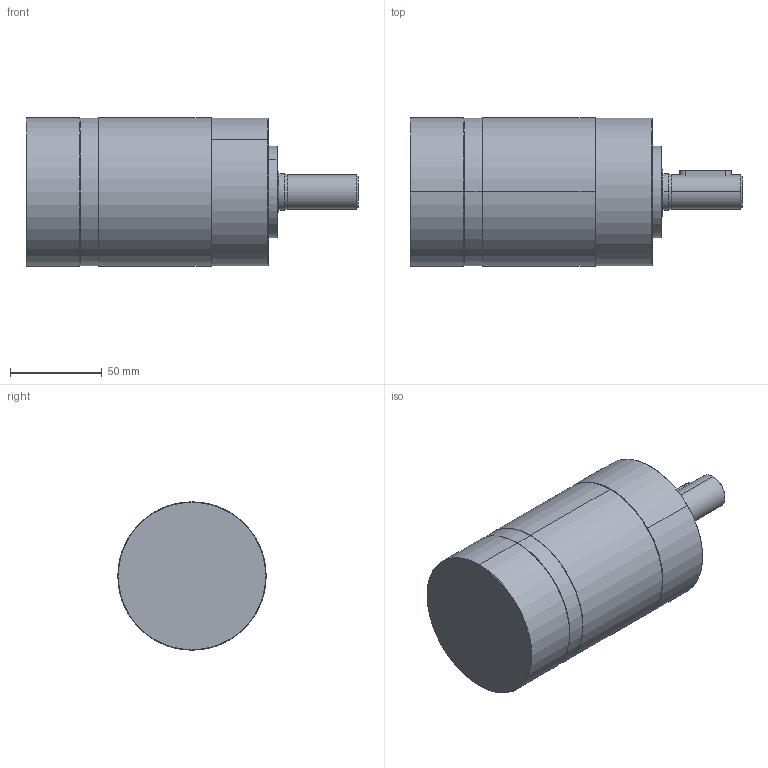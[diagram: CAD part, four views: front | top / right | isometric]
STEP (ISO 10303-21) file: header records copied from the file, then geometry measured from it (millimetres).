
FILE_DESCRIPTION (( 'STEP AP203' ), '1' );
FILE_NAME ('PI81-3.STEP', '2013-11-27T16:27:54', ( '' ), ( '' ), 'SwSTEP 2.0', 'SolidWorks 2012', '' );
FILE_SCHEMA (( 'CONFIG_CONTROL_DESIGN' ));
Length unit declared in the file: millimetre
Products named in the file (2): PI81-3; Group1^Baugruppe80_01
Assembly tree (1 placements, depth 2):
  PI81-3
    Group1^Baugruppe80_01
Bounding box: 181.2 x 81 x 81 mm (x, y, z)
Volume: 730875.4 mm3; surface area: 71237.7 mm2
Topology: 9 solids, 9 shells, 947 faces, 2376 edges, 1459 vertices
Faces by surface type: cone 518, cylinder 312, plane 93, torus 24
Entity records: 28694 total; most frequent: DIRECTION 5674, CARTESIAN_POINT 4768, ORIENTED_EDGE 4716, AXIS2_PLACEMENT_3D 2365, EDGE_CURVE 2358, VERTEX_POINT 1459, CIRCLE 1414, EDGE_LOOP 977
